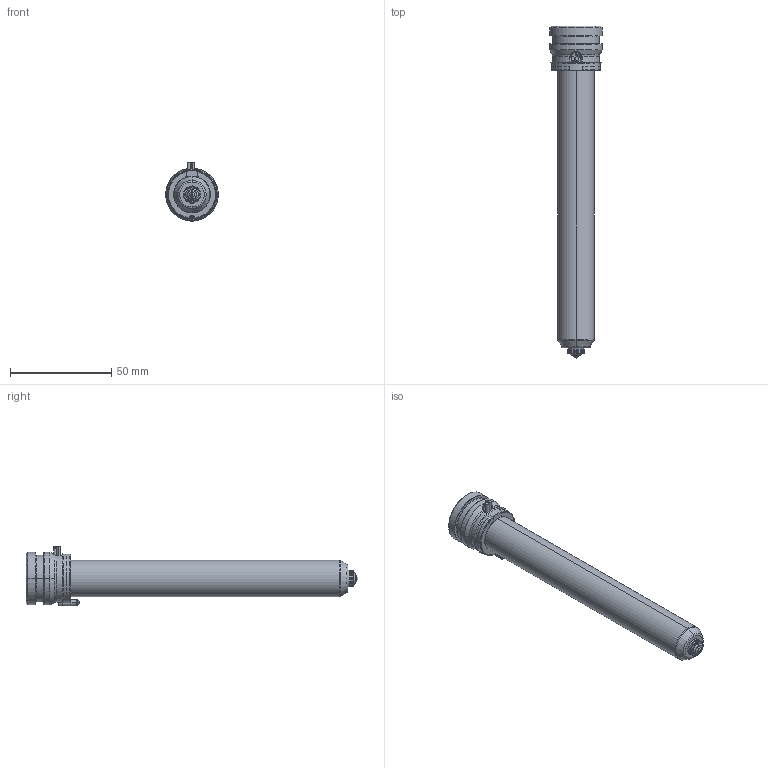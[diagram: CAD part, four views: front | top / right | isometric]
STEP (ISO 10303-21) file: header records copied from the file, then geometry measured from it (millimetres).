
FILE_DESCRIPTION((''),'2;1');
FILE_NAME('TH18146-A-1GLT-PK-JG','2023-12-14T',('umhib'),('Thermoplay S.p.A.'),'PRO/ENGINEER BY PARAMETRIC TECHNOLOGY CORPORATION, 2017170','PRO/ENGINEER BY PARAMETRIC TECHNOLOGY CORPORATION, 2017170','');
FILE_SCHEMA(('CONFIG_CONTROL_DESIGN'));
Length unit declared in the file: millimetre
Products named in the file (1): TH18146-A-1GLT-PK-JG
Bounding box: 26 x 164 x 29.5 mm (x, y, z)
Volume: 33120.9 mm3; surface area: 24306.8 mm2
Topology: 1 solids, 2 shells, 418 faces, 1085 edges, 675 vertices
Faces by surface type: cylinder 162, plane 90, cone 68, torus 62, bspline 24, sphere 10, extrusion 2
Entity records: 18142 total; most frequent: CARTESIAN_POINT 5862, DIRECTION 2187, ORIENTED_EDGE 2146, EDGE_CURVE 1075, AXIS2_PLACEMENT_3D 886, VERTEX_POINT 675, CIRCLE 493, EDGE_LOOP 443
